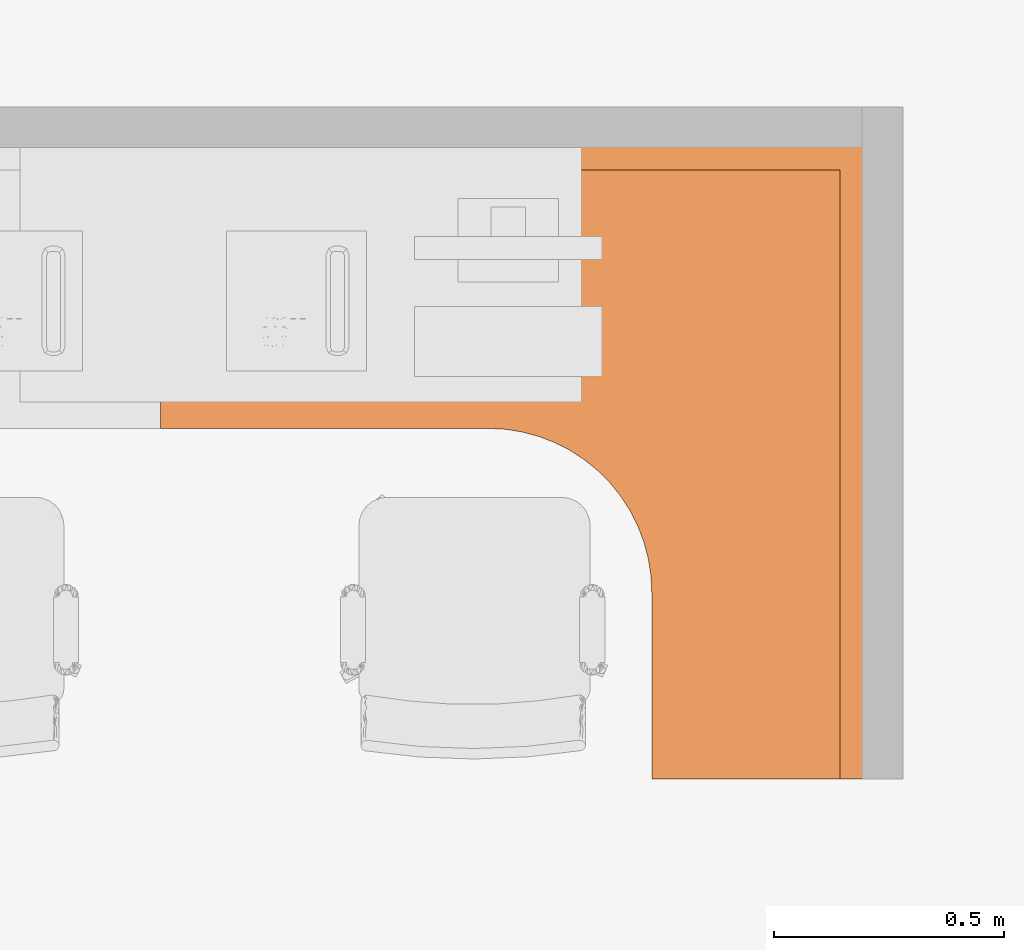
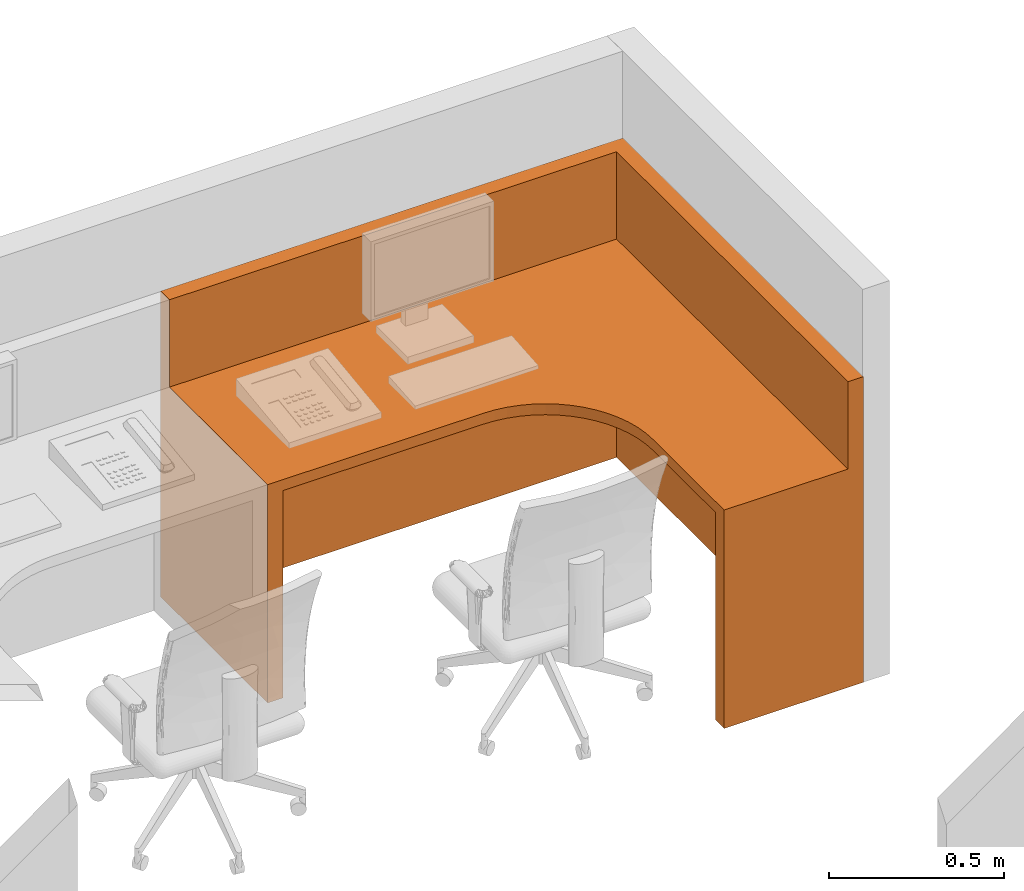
# One storey, part 65 of 142: 1 proxy.
"""IFC2X3 building model written with IfcOpenShell, lengths in feet."""

from ifc_helpers import new_model, entity, si_unit, converted_unit, derived_unit, direction, frame, frame_2d, origin, origin_2d_with_axis, place, context, subcontext, project, spatial, polyline, circle_curve, parameter, trimmed, segment, composite_curve, rectangle, outline, extrude, source, transform, mapped, type_object, type_shapes, element, save


model = new_model("IFC2X3")

# Units and contexts
model_context = context("Model", 3, precision=0.0001, world=origin(), true_north=direction((6.12303176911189e-17, 1.0)))
body_context = subcontext(model_context, "Body", "Model", "MODEL_VIEW")
ifc_project = project(units=[converted_unit("LENGTHUNIT", "FOOT", entity("IfcRatioMeasure", 0.3048), si_unit("LENGTHUNIT", "METRE"), dimensions=[1, 0, 0, 0, 0, 0, 0]), converted_unit("AREAUNIT", "SQUARE FOOT", entity("IfcRatioMeasure", 0.09290304), si_unit("AREAUNIT", "SQUARE_METRE"), dimensions=[2, 0, 0, 0, 0, 0, 0]), converted_unit("VOLUMEUNIT", "CUBIC FOOT", entity("IfcRatioMeasure", 0.028316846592), si_unit("VOLUMEUNIT", "CUBIC_METRE"), dimensions=[3, 0, 0, 0, 0, 0, 0]), converted_unit("PLANEANGLEUNIT", "DEGREE", entity("IfcRatioMeasure", 0.0174532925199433), si_unit("PLANEANGLEUNIT", "RADIAN"), dimensions=[0, 0, 0, 0, 0, 0, 0]), si_unit("MASSUNIT", "GRAM", prefix="KILO"), derived_unit("MASSDENSITYUNIT", [(si_unit("MASSUNIT", "GRAM", prefix="KILO"), 1), (si_unit("LENGTHUNIT", "METRE"), -3)]), si_unit("TIMEUNIT", "SECOND"), si_unit("FREQUENCYUNIT", "HERTZ"), si_unit("THERMODYNAMICTEMPERATUREUNIT", "DEGREE_CELSIUS"), derived_unit("THERMALTRANSMITTANCEUNIT", [(si_unit("MASSUNIT", "GRAM", prefix="KILO"), 1), (si_unit("THERMODYNAMICTEMPERATUREUNIT", "KELVIN"), -1), (si_unit("TIMEUNIT", "SECOND"), -3)]), derived_unit("VOLUMETRICFLOWRATEUNIT", [(si_unit("LENGTHUNIT", "METRE"), 3), (si_unit("TIMEUNIT", "SECOND"), -1)]), si_unit("ELECTRICCURRENTUNIT", "AMPERE"), si_unit("ELECTRICVOLTAGEUNIT", "VOLT"), si_unit("POWERUNIT", "WATT"), si_unit("FORCEUNIT", "NEWTON"), si_unit("ILLUMINANCEUNIT", "LUX"), si_unit("LUMINOUSFLUXUNIT", "LUMEN"), si_unit("LUMINOUSINTENSITYUNIT", "CANDELA"), derived_unit("USERDEFINED", [(si_unit("MASSUNIT", "GRAM", prefix="KILO"), -1), (si_unit("LENGTHUNIT", "METRE"), -2), (si_unit("TIMEUNIT", "SECOND"), 3), (si_unit("LUMINOUSFLUXUNIT", "LUMEN"), 1)]), derived_unit("LINEARVELOCITYUNIT", [(si_unit("LENGTHUNIT", "METRE"), 1), (si_unit("TIMEUNIT", "SECOND"), -1)]), si_unit("PRESSUREUNIT", "PASCAL"), derived_unit("USERDEFINED", [(si_unit("LENGTHUNIT", "METRE"), -2), (si_unit("MASSUNIT", "GRAM", prefix="KILO"), 1), (si_unit("TIMEUNIT", "SECOND"), -2)])], contexts=[model_context])

# Site, building, storey, space
site_placement = place(None, origin())
site = spatial("IfcSite", under=ifc_project, at=site_placement, Name="Default", CompositionType="ELEMENT")
building_placement = place(site_placement, origin())
building = spatial("IfcBuilding", under=site, at=building_placement, Name="OUTPATIENT / PACT CLINIC (Ch. 265)", CompositionType="ELEMENT")
storey_placement = place(building_placement, origin())
storey = spatial("IfcBuildingStorey", under=building, at=storey_placement, Name="LEVEL 1", CompositionType="ELEMENT", Elevation=0.0)
space_placement = place(storey_placement, origin())
space = spatial("IfcSpace", under=storey, at=space_placement, Name="WRTM1", CompositionType="ELEMENT", InteriorOrExteriorSpace="INTERNAL")

# Proxy
building_element_proxy_type = type_object("IfcBuildingElementProxyType", Name="U0075 - Workstation, L-Shaped, Freestanding, 60x54", PredefinedType="NOTDEFINED")
shared_shape = source(origin(), body_context, "Body", "SweptSolid", [
    extrude(rectangle(XDim=0.166666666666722, YDim=2.0, at=frame_2d((-1.3836154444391e-14, 0.0), x_axis=(1.0, 0.0))), frame((0.0833333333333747, -1.0, 0.0), z_axis=(0.0, 0.0, 1.0), x_axis=(-1.0, 0.0, 0.0)), (0.0, 0.0, 1.0), 2.375),
    extrude(rectangle(XDim=0.166666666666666, YDim=1.5, at=frame_2d((0.0, -4.44089209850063e-16), x_axis=(1.0, 0.0))), frame((4.25000000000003, -4.41666666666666, 0.0), z_axis=(0.0, 0.0, 1.0), x_axis=(0.0, 1.0, 0.0)), (0.0, 0.0, 1.0), 2.37499999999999),
    extrude(outline(composite_curve([segment(polyline([(-2.23809523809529, -2.3095238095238), (2.7619047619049, -2.3095238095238)]), True, "CONTINUOUS"), segment(polyline([(2.7619047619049, -2.3095238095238), (2.7619047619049, -0.309523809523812)]), True, "CONTINUOUS"), segment(polyline([(2.7619047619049, -0.309523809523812), (0.428571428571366, -0.309523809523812)]), True, "CONTINUOUS"), segment(trimmed(circle_curve(frame_2d((0.428571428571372, 0.857142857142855), x_axis=(1.0, 0.0)), 1.16666666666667), [parameter(180.0)], [parameter(270.0)], True, "PARAMETER"), False, "CONTINUOUS"), segment(polyline([(-0.738095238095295, 0.857142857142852), (-0.738095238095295, 2.19047619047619)]), True, "CONTINUOUS"), segment(polyline([(-0.738095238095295, 2.19047619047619), (-2.23809523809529, 2.19047619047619)]), True, "CONTINUOUS"), segment(polyline([(-2.23809523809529, 2.19047619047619), (-2.23809523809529, -2.3095238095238)]), True, "CONTINUOUS")], self_intersect=False)), frame((2.76190476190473, -2.30952380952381, 2.37499999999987), z_axis=(0.0, 0.0, 1.0), x_axis=(-1.0, 0.0, 0.0)), (0.0, 0.0, 1.0), 0.125),
    extrude(outline(polyline([(-2.16666666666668, -2.16666666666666), (2.83333333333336, -2.16666666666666), (2.83333333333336, -0.16666666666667), (-0.666666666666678, -0.16666666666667), (-0.666666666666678, 2.33333333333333), (-2.16666666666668, 2.33333333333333), (-2.16666666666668, -2.16666666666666)])), frame((2.83333333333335, -2.16666666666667, 2.37499999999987), z_axis=(0.0, 0.0, 1.0), x_axis=(-1.0, 0.0, 0.0)), (0.0, 0.0, 1.0), 0.125),
    extrude(rectangle(XDim=5.00000000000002, YDim=0.166666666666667, at=origin_2d_with_axis()), frame((2.49999999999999, -0.075000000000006, 0.0), z_axis=(0.0, 0.0, 1.0), x_axis=(-1.0, 0.0, 0.0)), (0.0, 0.0, 1.0), 3.5),
    extrude(rectangle(XDim=4.50000000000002, YDim=0.166666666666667, at=frame_2d((0.0, 4.44089209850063e-16), x_axis=(1.0, 0.0))), frame((4.92500000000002, -2.25000000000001, 0.0), z_axis=(0.0, 0.0, 1.0), x_axis=(0.0, 1.0, 0.0)), (0.0, 0.0, 1.0), 3.5),
])
type_shapes(building_element_proxy_type, [shared_shape])
proxy_placement = place(space_placement, frame((424.359283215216, -876.420519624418, 0.0)))
element("IfcBuildingElementProxy", 1, at=proxy_placement, inside=space, type_object=building_element_proxy_type, Name="U0075 - Workstation, L-Shaped, Freestanding, 60x54:U0075 - Workstation, L-Shaped, Freestanding, 60x54", ObjectType="U0075 - Workstation, L-Shaped, Freestanding, 60x54", context=body_context, shape_type="MappedRepresentation", body=[
    mapped(shared_shape, transform((0.0, 0.0, 0.0), scale=1.0)),
])

save(model, "model.ifc")
